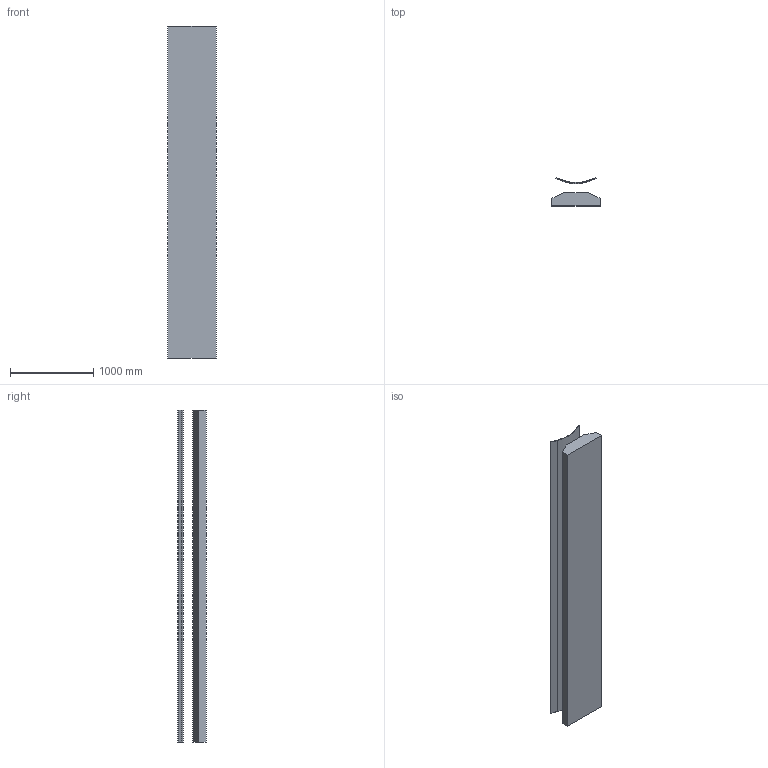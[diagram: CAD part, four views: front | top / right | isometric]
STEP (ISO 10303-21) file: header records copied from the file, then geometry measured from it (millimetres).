
FILE_DESCRIPTION (( 'STEP AP203' ), '1' );
FILE_NAME ('30778.step', '2019-03-14T14:33:14', ( 'PC' ), ( 'Hewlett-Packard Company' ), 'SwSTEP 2.0', 'SolidWorks 2016', '' );
FILE_SCHEMA (( 'CONFIG_CONTROL_DESIGN' ));
Length unit declared in the file: millimetre
Products named in the file (1): 30778
Bounding box: 580 x 339.07 x 4000 mm (x, y, z)
Volume: 347910639.1 mm3; surface area: 9707813.2 mm2
Topology: 2 solids, 2 shells, 18 faces, 42 edges, 28 vertices
Faces by surface type: plane 16, cylinder 2
Entity records: 585 total; most frequent: CARTESIAN_POINT 89, DIRECTION 84, ORIENTED_EDGE 84, EDGE_CURVE 42, VECTOR 38, LINE 38, VERTEX_POINT 28, AXIS2_PLACEMENT_3D 23
